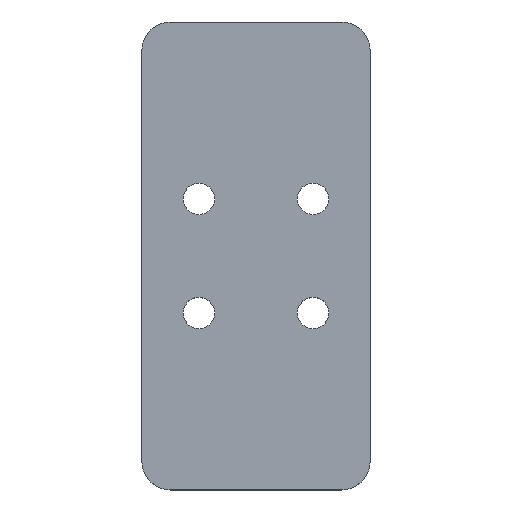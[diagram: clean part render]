
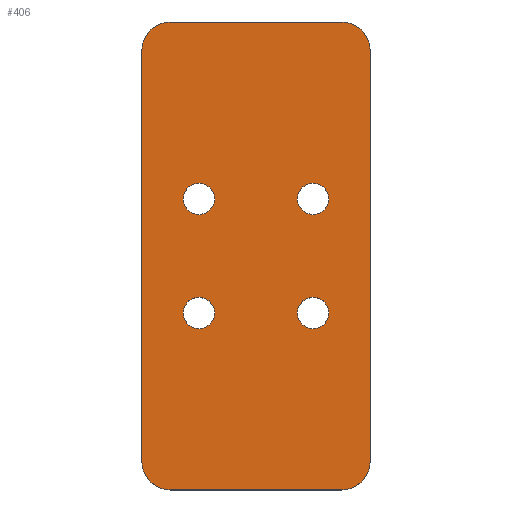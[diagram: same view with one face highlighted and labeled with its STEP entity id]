
A CAD part, top view. The second image highlights one B-rep face of the part: STEP entity #406.
In plain terms, the highlighted planar face has unit normal (0, 0, 1).
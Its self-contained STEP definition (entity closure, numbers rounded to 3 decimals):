
#3 = CARTESIAN_POINT ( 'NONE',  ( 0., -36., 10. ) ) ;
#9 = EDGE_LOOP ( 'NONE', ( #602, #513 ) ) ;
#11 = CARTESIAN_POINT ( 'NONE',  ( 30., 10., 10. ) ) ;
#14 = VERTEX_POINT ( 'NONE', #542 ) ;
#17 = DIRECTION ( 'NONE',  ( -1., 0., 0. ) ) ;
#28 = VERTEX_POINT ( 'NONE', #113 ) ;
#34 = ORIENTED_EDGE ( 'NONE', *, *, #483, .T. ) ;
#35 = VERTEX_POINT ( 'NONE', #618 ) ;
#44 = DIRECTION ( 'NONE',  ( 0., 0., -1. ) ) ;
#47 = EDGE_LOOP ( 'NONE', ( #523, #359, #74, #450, #347, #570, #296, #34 ) ) ;
#51 = DIRECTION ( 'NONE',  ( 1., 0., 0. ) ) ;
#52 = CIRCLE ( 'NONE', #373, 5. ) ;
#57 = CARTESIAN_POINT ( 'NONE',  ( 0., 0., 10. ) ) ;
#70 = AXIS2_PLACEMENT_3D ( 'NONE', #487, #196, #148 ) ;
#74 = ORIENTED_EDGE ( 'NONE', *, *, #101, .F. ) ;
#77 = DIRECTION ( 'NONE',  ( 0., 0., -1. ) ) ;
#78 = DIRECTION ( 'NONE',  ( 0., 0., -1. ) ) ;
#79 = CARTESIAN_POINT ( 'NONE',  ( 12.75, -10., 10. ) ) ;
#83 = VERTEX_POINT ( 'NONE', #303 ) ;
#88 = ORIENTED_EDGE ( 'NONE', *, *, #519, .T. ) ;
#91 = AXIS2_PLACEMENT_3D ( 'NONE', #104, #287, #51 ) ;
#94 = EDGE_CURVE ( 'NONE', #536, #499, #493, .T. ) ;
#97 = LINE ( 'NONE', #227, #467 ) ;
#101 = EDGE_CURVE ( 'NONE', #317, #499, #97, .T. ) ;
#104 = CARTESIAN_POINT ( 'NONE',  ( 30., -10., 10. ) ) ;
#108 = FACE_BOUND ( 'NONE', #525, .T. ) ;
#113 = CARTESIAN_POINT ( 'NONE',  ( 5., -41., 10. ) ) ;
#118 = DIRECTION ( 'NONE',  ( 1., 0., 0. ) ) ;
#124 = CARTESIAN_POINT ( 'NONE',  ( 35., 36., 10. ) ) ;
#127 = DIRECTION ( 'NONE',  ( 0., 0., 1. ) ) ;
#128 = DIRECTION ( 'NONE',  ( 0., 0., 1. ) ) ;
#132 = DIRECTION ( 'NONE',  ( 1., 0., 0. ) ) ;
#138 = LINE ( 'NONE', #351, #335 ) ;
#139 = ORIENTED_EDGE ( 'NONE', *, *, #438, .T. ) ;
#140 = FACE_BOUND ( 'NONE', #411, .T. ) ;
#141 = VERTEX_POINT ( 'NONE', #188 ) ;
#144 = AXIS2_PLACEMENT_3D ( 'NONE', #124, #354, #17 ) ;
#148 = DIRECTION ( 'NONE',  ( 1., 0., 0. ) ) ;
#159 = CARTESIAN_POINT ( 'NONE',  ( 35., -41., 10. ) ) ;
#171 = DIRECTION ( 'NONE',  ( 0., 0., 1. ) ) ;
#172 = CARTESIAN_POINT ( 'NONE',  ( 32.75, 10., 10. ) ) ;
#178 = EDGE_CURVE ( 'NONE', #376, #28, #52, .T. ) ;
#188 = CARTESIAN_POINT ( 'NONE',  ( 32.75, -10., 10. ) ) ;
#189 = EDGE_CURVE ( 'NONE', #83, #141, #239, .T. ) ;
#193 = ORIENTED_EDGE ( 'NONE', *, *, #189, .T. ) ;
#196 = DIRECTION ( 'NONE',  ( 0., 0., -1. ) ) ;
#197 = VERTEX_POINT ( 'NONE', #172 ) ;
#198 = AXIS2_PLACEMENT_3D ( 'NONE', #254, #412, #132 ) ;
#216 = ORIENTED_EDGE ( 'NONE', *, *, #384, .T. ) ;
#220 = FACE_OUTER_BOUND ( 'NONE', #47, .T. ) ;
#227 = CARTESIAN_POINT ( 'NONE',  ( 0., 41., 10. ) ) ;
#230 = AXIS2_PLACEMENT_3D ( 'NONE', #568, #171, #469 ) ;
#235 = CIRCLE ( 'NONE', #491, 5. ) ;
#239 = CIRCLE ( 'NONE', #441, 2.75 ) ;
#242 = CARTESIAN_POINT ( 'NONE',  ( 5., -36., 10. ) ) ;
#244 = CIRCLE ( 'NONE', #198, 2.75 ) ;
#245 = CARTESIAN_POINT ( 'NONE',  ( 0., -41., 10. ) ) ;
#249 = DIRECTION ( 'NONE',  ( 0., 1., 0. ) ) ;
#250 = EDGE_CURVE ( 'NONE', #376, #14, #305, .T. ) ;
#251 = DIRECTION ( 'NONE',  ( -1., 0., 0. ) ) ;
#252 = CIRCLE ( 'NONE', #434, 2.75 ) ;
#254 = CARTESIAN_POINT ( 'NONE',  ( 30., 10., 10. ) ) ;
#257 = VECTOR ( 'NONE', #249, 1000. ) ;
#264 = VERTEX_POINT ( 'NONE', #79 ) ;
#268 = PLANE ( 'NONE',  #327 ) ;
#269 = DIRECTION ( 'NONE',  ( -1., 0., 0. ) ) ;
#283 = ORIENTED_EDGE ( 'NONE', *, *, #587, .T. ) ;
#285 = CARTESIAN_POINT ( 'NONE',  ( 5., 41., 10. ) ) ;
#287 = DIRECTION ( 'NONE',  ( 0., 0., -1. ) ) ;
#288 = AXIS2_PLACEMENT_3D ( 'NONE', #11, #78, #495 ) ;
#292 = EDGE_CURVE ( 'NONE', #536, #429, #138, .T. ) ;
#296 = ORIENTED_EDGE ( 'NONE', *, *, #567, .F. ) ;
#303 = CARTESIAN_POINT ( 'NONE',  ( 27.25, -10., 10. ) ) ;
#305 = LINE ( 'NONE', #245, #257 ) ;
#306 = DIRECTION ( 'NONE',  ( 0., -1., 0. ) ) ;
#316 = DIRECTION ( 'NONE',  ( 0., 0., -1. ) ) ;
#317 = VERTEX_POINT ( 'NONE', #285 ) ;
#318 = DIRECTION ( 'NONE',  ( 1., 0., 0. ) ) ;
#322 = EDGE_CURVE ( 'NONE', #526, #632, #510, .T. ) ;
#323 = CARTESIAN_POINT ( 'NONE',  ( 40., -41., 10. ) ) ;
#327 = AXIS2_PLACEMENT_3D ( 'NONE', #57, #77, #396 ) ;
#333 = LINE ( 'NONE', #323, #572 ) ;
#335 = VECTOR ( 'NONE', #306, 1000. ) ;
#336 = CIRCLE ( 'NONE', #230, 5. ) ;
#343 = CARTESIAN_POINT ( 'NONE',  ( 30., -10., 10. ) ) ;
#347 = ORIENTED_EDGE ( 'NONE', *, *, #250, .F. ) ;
#351 = CARTESIAN_POINT ( 'NONE',  ( 40., 41., 10. ) ) ;
#353 = CARTESIAN_POINT ( 'NONE',  ( 35., -36., 10. ) ) ;
#354 = DIRECTION ( 'NONE',  ( 0., 0., 1. ) ) ;
#359 = ORIENTED_EDGE ( 'NONE', *, *, #94, .T. ) ;
#363 = DIRECTION ( 'NONE',  ( 1., 0., 0. ) ) ;
#365 = CARTESIAN_POINT ( 'NONE',  ( 40., -36., 10. ) ) ;
#373 = AXIS2_PLACEMENT_3D ( 'NONE', #242, #128, #269 ) ;
#376 = VERTEX_POINT ( 'NONE', #3 ) ;
#384 = EDGE_CURVE ( 'NONE', #547, #197, #244, .T. ) ;
#396 = DIRECTION ( 'NONE',  ( -1., 0., 0. ) ) ;
#399 = EDGE_CURVE ( 'NONE', #317, #14, #336, .T. ) ;
#402 = CIRCLE ( 'NONE', #564, 2.75 ) ;
#406 = ADVANCED_FACE ( 'NONE', ( #461, #108, #140, #427, #220 ), #268, .F. ) ;
#411 = EDGE_LOOP ( 'NONE', ( #139, #88 ) ) ;
#412 = DIRECTION ( 'NONE',  ( 0., 0., -1. ) ) ;
#416 = CARTESIAN_POINT ( 'NONE',  ( 27.25, 10., 10. ) ) ;
#424 = ORIENTED_EDGE ( 'NONE', *, *, #425, .T. ) ;
#425 = EDGE_CURVE ( 'NONE', #197, #547, #565, .T. ) ;
#426 = EDGE_LOOP ( 'NONE', ( #193, #283 ) ) ;
#427 = FACE_BOUND ( 'NONE', #426, .T. ) ;
#429 = VERTEX_POINT ( 'NONE', #365 ) ;
#434 = AXIS2_PLACEMENT_3D ( 'NONE', #458, #597, #118 ) ;
#438 = EDGE_CURVE ( 'NONE', #35, #264, #252, .T. ) ;
#441 = AXIS2_PLACEMENT_3D ( 'NONE', #343, #44, #318 ) ;
#447 = VERTEX_POINT ( 'NONE', #159 ) ;
#450 = ORIENTED_EDGE ( 'NONE', *, *, #399, .T. ) ;
#458 = CARTESIAN_POINT ( 'NONE',  ( 10., -10., 10. ) ) ;
#461 = FACE_BOUND ( 'NONE', #9, .T. ) ;
#467 = VECTOR ( 'NONE', #506, 1000. ) ;
#469 = DIRECTION ( 'NONE',  ( -1., 0., 0. ) ) ;
#483 = EDGE_CURVE ( 'NONE', #447, #429, #235, .T. ) ;
#487 = CARTESIAN_POINT ( 'NONE',  ( 10., 10., 10. ) ) ;
#491 = AXIS2_PLACEMENT_3D ( 'NONE', #353, #127, #622 ) ;
#493 = CIRCLE ( 'NONE', #144, 5. ) ;
#495 = DIRECTION ( 'NONE',  ( 1., 0., 0. ) ) ;
#497 = EDGE_CURVE ( 'NONE', #632, #526, #402, .T. ) ;
#499 = VERTEX_POINT ( 'NONE', #555 ) ;
#500 = CIRCLE ( 'NONE', #596, 2.75 ) ;
#506 = DIRECTION ( 'NONE',  ( 1., 0., 0. ) ) ;
#507 = CARTESIAN_POINT ( 'NONE',  ( 7.25, 10., 10. ) ) ;
#510 = CIRCLE ( 'NONE', #70, 2.75 ) ;
#513 = ORIENTED_EDGE ( 'NONE', *, *, #322, .T. ) ;
#519 = EDGE_CURVE ( 'NONE', #264, #35, #500, .T. ) ;
#523 = ORIENTED_EDGE ( 'NONE', *, *, #292, .F. ) ;
#525 = EDGE_LOOP ( 'NONE', ( #216, #424 ) ) ;
#526 = VERTEX_POINT ( 'NONE', #611 ) ;
#532 = CIRCLE ( 'NONE', #91, 2.75 ) ;
#536 = VERTEX_POINT ( 'NONE', #633 ) ;
#542 = CARTESIAN_POINT ( 'NONE',  ( 0., 36., 10. ) ) ;
#546 = CARTESIAN_POINT ( 'NONE',  ( 10., 10., 10. ) ) ;
#547 = VERTEX_POINT ( 'NONE', #416 ) ;
#555 = CARTESIAN_POINT ( 'NONE',  ( 35., 41., 10. ) ) ;
#564 = AXIS2_PLACEMENT_3D ( 'NONE', #546, #316, #363 ) ;
#565 = CIRCLE ( 'NONE', #288, 2.75 ) ;
#567 = EDGE_CURVE ( 'NONE', #447, #28, #333, .T. ) ;
#568 = CARTESIAN_POINT ( 'NONE',  ( 5., 36., 10. ) ) ;
#570 = ORIENTED_EDGE ( 'NONE', *, *, #178, .T. ) ;
#572 = VECTOR ( 'NONE', #251, 1000. ) ;
#577 = DIRECTION ( 'NONE',  ( 0., 0., -1. ) ) ;
#587 = EDGE_CURVE ( 'NONE', #141, #83, #532, .T. ) ;
#596 = AXIS2_PLACEMENT_3D ( 'NONE', #617, #577, #620 ) ;
#597 = DIRECTION ( 'NONE',  ( 0., 0., -1. ) ) ;
#602 = ORIENTED_EDGE ( 'NONE', *, *, #497, .T. ) ;
#611 = CARTESIAN_POINT ( 'NONE',  ( 12.75, 10., 10. ) ) ;
#617 = CARTESIAN_POINT ( 'NONE',  ( 10., -10., 10. ) ) ;
#618 = CARTESIAN_POINT ( 'NONE',  ( 7.25, -10., 10. ) ) ;
#620 = DIRECTION ( 'NONE',  ( 1., 0., 0. ) ) ;
#622 = DIRECTION ( 'NONE',  ( -1., 0., 0. ) ) ;
#632 = VERTEX_POINT ( 'NONE', #507 ) ;
#633 = CARTESIAN_POINT ( 'NONE',  ( 40., 36., 10. ) ) ;
